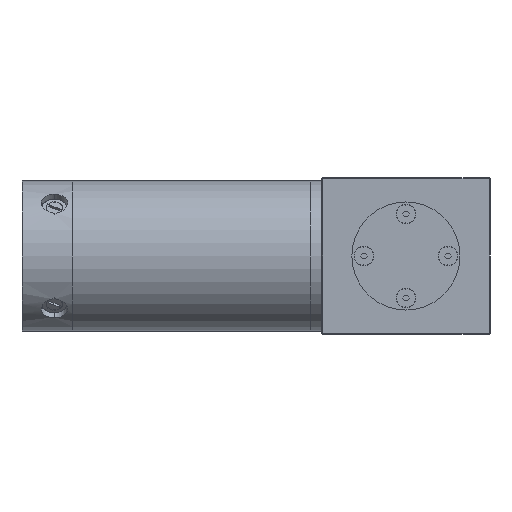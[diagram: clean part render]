
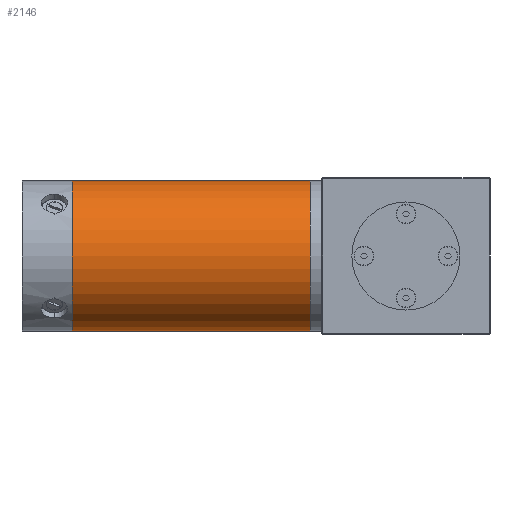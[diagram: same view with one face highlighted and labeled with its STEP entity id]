
A CAD part, left-side view. The second image highlights one B-rep face of the part: STEP entity #2146.
In plain terms, the highlighted cylindrical face has radius 39.685 mm (diameter 79.37 mm), a partial arc.
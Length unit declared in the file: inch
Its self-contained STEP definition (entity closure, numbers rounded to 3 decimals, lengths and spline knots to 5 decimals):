
#731 = DIRECTION ( 'NONE',  ( 0., 0., 1. ) ) ;
#2146 = ADVANCED_FACE ( 'NONE', ( #2917 ), #7428, .T. ) ;
#2691 = LINE ( 'NONE', #10550, #36935 ) ;
#2783 = EDGE_LOOP ( 'NONE', ( #31148, #37459, #45505, #30527 ) ) ;
#2917 = FACE_OUTER_BOUND ( 'NONE', #2783, .T. ) ;
#3885 = AXIS2_PLACEMENT_3D ( 'NONE', #26163, #5937, #42719 ) ;
#5937 = DIRECTION ( 'NONE',  ( 0., -1., 0. ) ) ;
#7428 = CYLINDRICAL_SURFACE ( 'NONE', #3885, 1.5624 ) ;
#10550 = CARTESIAN_POINT ( 'NONE',  ( 9.26851, 19694.77953, 3.1874 ) ) ;
#11173 = DIRECTION ( 'NONE',  ( 0., -1., 0. ) ) ;
#13680 = AXIS2_PLACEMENT_3D ( 'NONE', #22979, #31122, #30783 ) ;
#17545 = DIRECTION ( 'NONE',  ( 0., -1., 0. ) ) ;
#19182 = AXIS2_PLACEMENT_3D ( 'NONE', #30006, #17545, #731 ) ;
#19600 = EDGE_CURVE ( 'NONE', #49681, #23377, #52885, .T. ) ;
#21468 = CARTESIAN_POINT ( 'NONE',  ( 9.26851, 8.69016, 0.0626 ) ) ;
#22979 = CARTESIAN_POINT ( 'NONE',  ( 9.26851, 3.73622, 1.625 ) ) ;
#23377 = VERTEX_POINT ( 'NONE', #21468 ) ;
#23886 = VERTEX_POINT ( 'NONE', #36673 ) ;
#26001 = EDGE_CURVE ( 'NONE', #32687, #23886, #51650, .T. ) ;
#26163 = CARTESIAN_POINT ( 'NONE',  ( 9.26851, 19694.77953, 1.625 ) ) ;
#30006 = CARTESIAN_POINT ( 'NONE',  ( 9.26851, 8.69016, 1.625 ) ) ;
#30105 = LINE ( 'NONE', #43956, #49330 ) ;
#30527 = ORIENTED_EDGE ( 'NONE', *, *, #38472, .F. ) ;
#30783 = DIRECTION ( 'NONE',  ( 0., 0., -1. ) ) ;
#31122 = DIRECTION ( 'NONE',  ( 0., 1., 0. ) ) ;
#31123 = DIRECTION ( 'NONE',  ( 0., -1., 0. ) ) ;
#31148 = ORIENTED_EDGE ( 'NONE', *, *, #19600, .T. ) ;
#32687 = VERTEX_POINT ( 'NONE', #35932 ) ;
#35932 = CARTESIAN_POINT ( 'NONE',  ( 9.26851, 3.73622, 0.0626 ) ) ;
#36673 = CARTESIAN_POINT ( 'NONE',  ( 9.26851, 3.73622, 3.1874 ) ) ;
#36935 = VECTOR ( 'NONE', #31123, 39.37008 ) ;
#37459 = ORIENTED_EDGE ( 'NONE', *, *, #47589, .T. ) ;
#38472 = EDGE_CURVE ( 'NONE', #49681, #23886, #2691, .T. ) ;
#41340 = CARTESIAN_POINT ( 'NONE',  ( 9.26851, 8.69016, 3.1874 ) ) ;
#42719 = DIRECTION ( 'NONE',  ( 0., 0., 1. ) ) ;
#43956 = CARTESIAN_POINT ( 'NONE',  ( 9.26851, 19694.77953, 0.0626 ) ) ;
#45505 = ORIENTED_EDGE ( 'NONE', *, *, #26001, .T. ) ;
#47589 = EDGE_CURVE ( 'NONE', #23377, #32687, #30105, .T. ) ;
#49330 = VECTOR ( 'NONE', #11173, 39.37008 ) ;
#49681 = VERTEX_POINT ( 'NONE', #41340 ) ;
#51650 = CIRCLE ( 'NONE', #13680, 1.5624 ) ;
#52885 = CIRCLE ( 'NONE', #19182, 1.5624 ) ;
